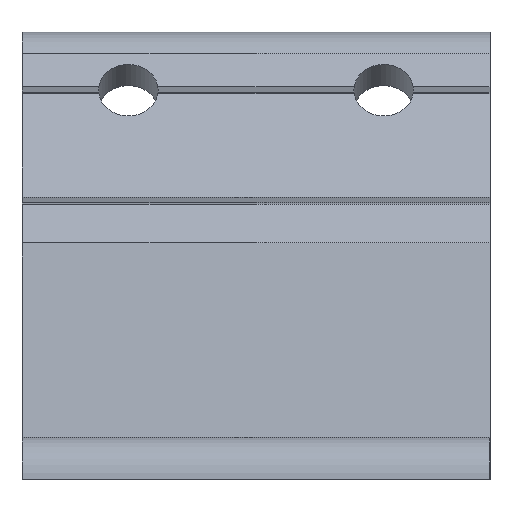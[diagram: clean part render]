
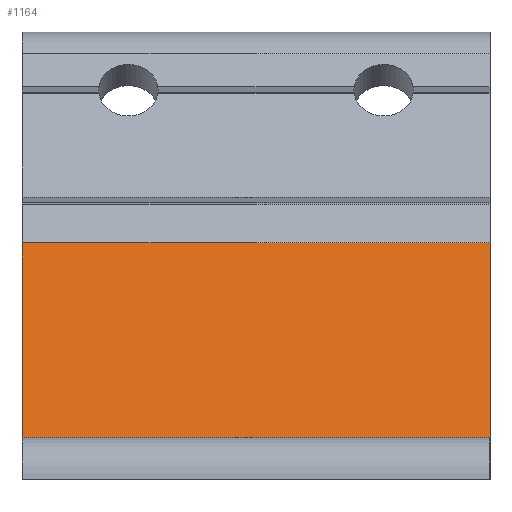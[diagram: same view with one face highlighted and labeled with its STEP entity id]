
A CAD part, left-side view. The second image highlights one B-rep face of the part: STEP entity #1164.
In plain terms, the highlighted planar face has unit normal (-0.5, 0, 0.866).
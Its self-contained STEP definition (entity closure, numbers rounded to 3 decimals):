
#100=LINE('',#1822,#222);
#127=LINE('',#1881,#249);
#145=LINE('',#1915,#267);
#152=LINE('',#1932,#274);
#222=VECTOR('',#1451,1000.);
#249=VECTOR('',#1498,1000.);
#267=VECTOR('',#1520,1000.);
#274=VECTOR('',#1543,1000.);
#502=ORIENTED_EDGE('',*,*,#717,.T.);
#503=ORIENTED_EDGE('',*,*,#780,.F.);
#504=ORIENTED_EDGE('',*,*,#750,.F.);
#505=ORIENTED_EDGE('',*,*,#769,.T.);
#717=EDGE_CURVE('',#886,#885,#100,.T.);
#750=EDGE_CURVE('',#907,#908,#127,.T.);
#769=EDGE_CURVE('',#907,#886,#145,.T.);
#780=EDGE_CURVE('',#908,#885,#152,.T.);
#885=VERTEX_POINT('',#1821);
#886=VERTEX_POINT('',#1823);
#907=VERTEX_POINT('',#1880);
#908=VERTEX_POINT('',#1882);
#992=EDGE_LOOP('',(#502,#503,#504,#505));
#1054=FACE_BOUND('',#992,.T.);
#1114=PLANE('',#1277);
#1164=ADVANCED_FACE('',(#1054),#1114,.F.);
#1277=AXIS2_PLACEMENT_3D('',#1957,#1576,#1577);
#1451=DIRECTION('',(-0.866,0.,-0.5));
#1498=DIRECTION('',(-0.866,0.,-0.5));
#1520=DIRECTION('',(0.,1.,0.));
#1543=DIRECTION('',(0.,1.,0.));
#1576=DIRECTION('',(0.5,0.,-0.866));
#1577=DIRECTION('',(-0.866,0.,-0.5));
#1821=CARTESIAN_POINT('',(-29.268,27.5,5.));
#1822=CARTESIAN_POINT('',(10.304,27.5,27.847));
#1823=CARTESIAN_POINT('',(10.304,27.5,27.847));
#1880=CARTESIAN_POINT('',(10.304,-27.5,27.847));
#1881=CARTESIAN_POINT('',(10.304,-27.5,27.847));
#1882=CARTESIAN_POINT('',(-29.268,-27.5,5.));
#1915=CARTESIAN_POINT('',(10.304,-27.5,27.847));
#1932=CARTESIAN_POINT('',(-29.268,-27.5,5.));
#1957=CARTESIAN_POINT('',(10.304,-27.5,27.847));
